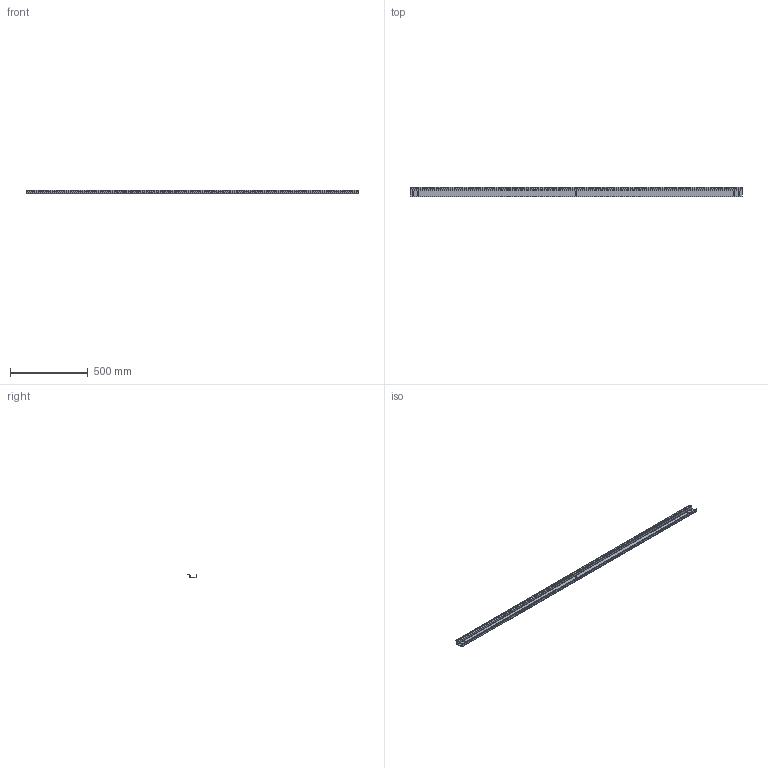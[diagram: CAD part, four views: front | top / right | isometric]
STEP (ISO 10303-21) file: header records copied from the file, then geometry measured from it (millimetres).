
FILE_DESCRIPTION(/* description */ ('Unknown'),/* implementation_level */ '2;1');
FILE_NAME(/* name */ 'COM53616',/* time_stamp */ '2019-07-26T15:34:24-04:00',/* author */ ('Unknown'),/* organization */ ('Unknown'),/* preprocessor_version */ 'ST-DEVELOPER v16.7',/* originating_system */ 'DEX',/* authorisation */ $);
FILE_SCHEMA (('AUTOMOTIVE_DESIGN {1 0 10303 214 3 1 1}'));
Length unit declared in the file: millimetre
Products named in the file (1): COM53616
Bounding box: 2133.6 x 62.18 x 21.87 mm (x, y, z)
Volume: 625330.1 mm3; surface area: 421983.7 mm2
Topology: 1 solids, 1 shells, 326 faces, 972 edges, 648 vertices
Faces by surface type: cylinder 304, plane 22
Full cylindrical faces by diameter (mm): 4.496 x288
Entity records: 11086 total; most frequent: DIRECTION 1946, CARTESIAN_POINT 1659, ORIENTED_EDGE 1368, EDGE_LOOP 1200, FACE_BOUND 1200, AXIS2_PLACEMENT_3D 935, EDGE_CURVE 684, VERTEX_POINT 648
